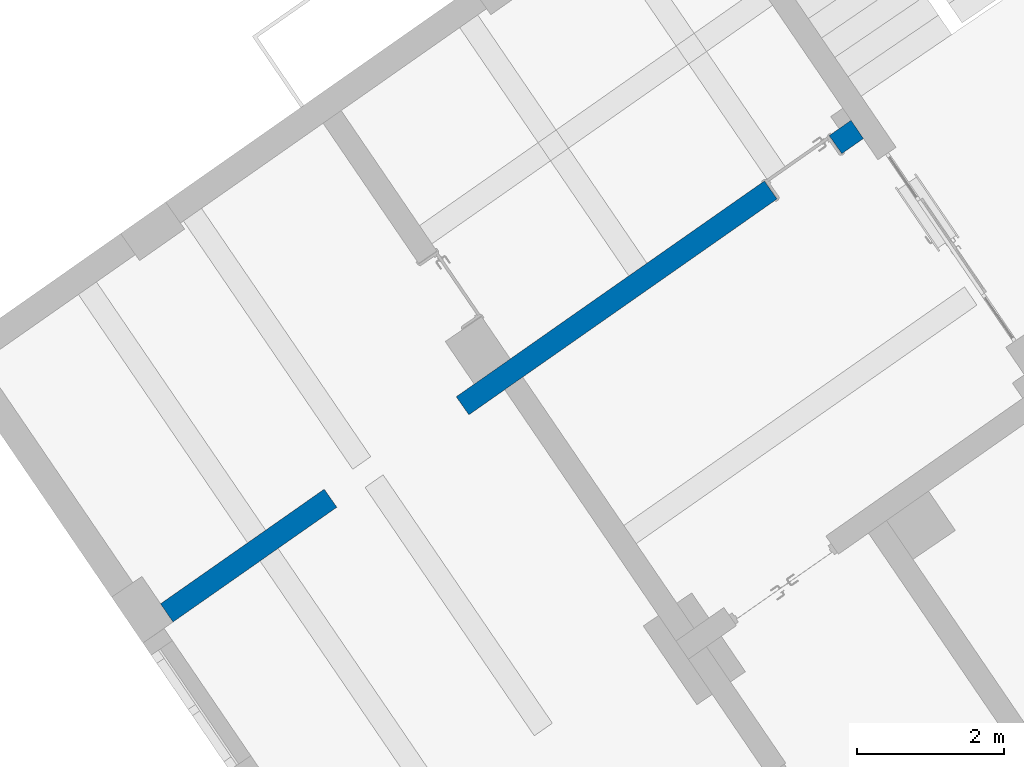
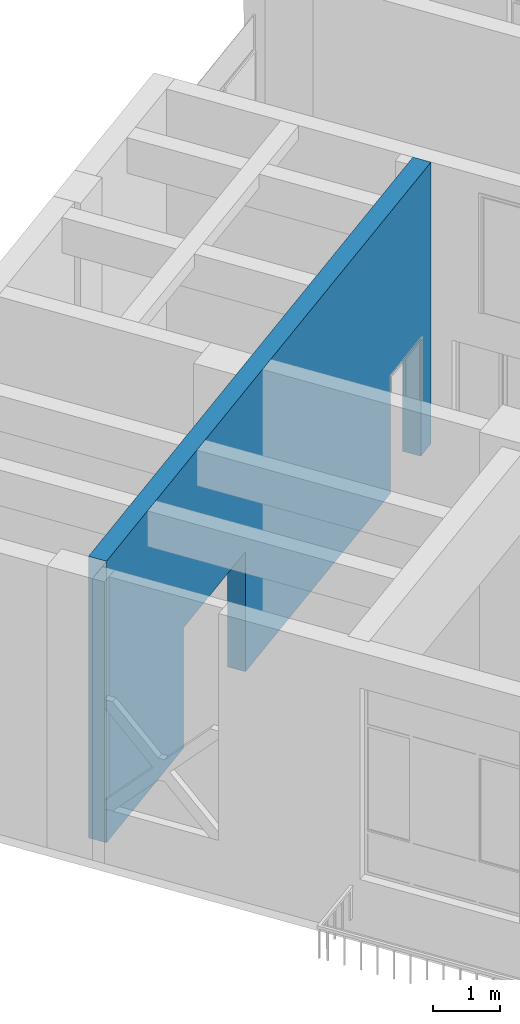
# One storey, part 129 of 157: 1 wall, 1 opening.
"""IFC2X3 building model written with IfcOpenShell, lengths in millimetres."""

from ifc_helpers import new_model, entity, si_unit, converted_unit, derived_unit, direction, frame, frame_2d, origin, place, context, subcontext, project, spatial, rectangle, extrude, faceted_brep, material, layer, layer_set, type_object, element, save


model = new_model("IFC2X3")

# Units and contexts
model_context = context("Model", 3, precision=0.01, world=origin(), true_north=direction((6.123031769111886e-17, 1.0)))
body_context = subcontext(model_context, "Body", "Model", "MODEL_VIEW")
ifc_project = project(units=[si_unit("LENGTHUNIT", "METRE", prefix="MILLI"), si_unit("AREAUNIT", "SQUARE_METRE"), si_unit("VOLUMEUNIT", "CUBIC_METRE"), converted_unit("PLANEANGLEUNIT", "DEGREE", entity("IfcRatioMeasure", 0.017453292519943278), si_unit("PLANEANGLEUNIT", "RADIAN"), dimensions=[0, 0, 0, 0, 0, 0, 0]), si_unit("MASSUNIT", "GRAM", prefix="KILO"), derived_unit("MASSDENSITYUNIT", [(si_unit("MASSUNIT", "GRAM", prefix="KILO"), 1), (si_unit("LENGTHUNIT", "METRE"), -3)]), derived_unit("MOMENTOFINERTIAUNIT", [(si_unit("LENGTHUNIT", "METRE"), 4)]), si_unit("TIMEUNIT", "SECOND"), si_unit("FREQUENCYUNIT", "HERTZ"), si_unit("THERMODYNAMICTEMPERATUREUNIT", "DEGREE_CELSIUS"), derived_unit("THERMALTRANSMITTANCEUNIT", [(si_unit("MASSUNIT", "GRAM", prefix="KILO"), 1), (si_unit("THERMODYNAMICTEMPERATUREUNIT", "KELVIN"), -1), (si_unit("TIMEUNIT", "SECOND"), -3)]), derived_unit("THERMALCONDUCTANCEUNIT", [(si_unit("MASSUNIT", "GRAM", prefix="KILO"), 1), (si_unit("LENGTHUNIT", "METRE"), 1), (si_unit("THERMODYNAMICTEMPERATUREUNIT", "KELVIN"), -1), (si_unit("TIMEUNIT", "SECOND"), -3)]), derived_unit("VOLUMETRICFLOWRATEUNIT", [(si_unit("LENGTHUNIT", "METRE"), 3), (si_unit("TIMEUNIT", "SECOND"), -1)]), derived_unit("MASSFLOWRATEUNIT", [(si_unit("MASSUNIT", "GRAM", prefix="KILO"), 1), (si_unit("TIMEUNIT", "SECOND"), -1)]), derived_unit("ROTATIONALFREQUENCYUNIT", [(si_unit("TIMEUNIT", "SECOND"), -1)]), si_unit("ELECTRICCURRENTUNIT", "AMPERE"), si_unit("ELECTRICVOLTAGEUNIT", "VOLT"), si_unit("POWERUNIT", "WATT"), converted_unit("FORCEUNIT", "KIP", entity("IfcRatioMeasure", 2.088543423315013e-05), si_unit("FORCEUNIT", "NEWTON"), dimensions=[1, 1, -2, 0, 0, 0, 0]), si_unit("ILLUMINANCEUNIT", "LUX"), si_unit("LUMINOUSFLUXUNIT", "LUMEN"), si_unit("LUMINOUSINTENSITYUNIT", "CANDELA"), derived_unit("USERDEFINED", [(si_unit("MASSUNIT", "GRAM", prefix="KILO"), -1), (si_unit("LENGTHUNIT", "METRE"), -2), (si_unit("TIMEUNIT", "SECOND"), 3), (si_unit("LUMINOUSFLUXUNIT", "LUMEN"), 1)]), derived_unit("USERDEFINED", [(si_unit("MASSUNIT", "GRAM", prefix="KILO"), 1), (si_unit("LENGTHUNIT", "METRE"), 3), (si_unit("TIMEUNIT", "SECOND"), -3), (si_unit("ELECTRICCURRENTUNIT", "AMPERE"), -2)]), derived_unit("USERDEFINED", [(si_unit("LENGTHUNIT", "METRE"), 2), (si_unit("TIMEUNIT", "SECOND"), -2)]), derived_unit("SOUNDPOWERUNIT", [(si_unit("MASSUNIT", "GRAM", prefix="KILO"), 1), (si_unit("LENGTHUNIT", "METRE"), 2), (si_unit("TIMEUNIT", "SECOND"), -3)]), derived_unit("SOUNDPRESSUREUNIT", [(si_unit("MASSUNIT", "GRAM", prefix="KILO"), 1), (si_unit("LENGTHUNIT", "METRE"), -1), (si_unit("TIMEUNIT", "SECOND"), -2)]), derived_unit("LINEARVELOCITYUNIT", [(si_unit("LENGTHUNIT", "METRE"), 1), (si_unit("TIMEUNIT", "SECOND"), -1)]), si_unit("PRESSUREUNIT", "PASCAL"), derived_unit("USERDEFINED", [(si_unit("LENGTHUNIT", "METRE"), -2), (si_unit("MASSUNIT", "GRAM", prefix="KILO"), 1), (si_unit("TIMEUNIT", "SECOND"), -2)]), derived_unit("LINEARFORCEUNIT", [(si_unit("MASSUNIT", "GRAM", prefix="KILO"), 1), (si_unit("LENGTHUNIT", "METRE"), 1), (si_unit("TIMEUNIT", "SECOND"), -2), (si_unit("LENGTHUNIT", "METRE"), -1)]), derived_unit("PLANARFORCEUNIT", [(si_unit("MASSUNIT", "GRAM", prefix="KILO"), 1), (si_unit("LENGTHUNIT", "METRE"), 1), (si_unit("TIMEUNIT", "SECOND"), -2), (si_unit("LENGTHUNIT", "METRE"), -2)]), derived_unit("SPECIFICHEATCAPACITYUNIT", [(si_unit("LENGTHUNIT", "METRE"), 2), (si_unit("TIMEUNIT", "SECOND"), -2), (si_unit("THERMODYNAMICTEMPERATUREUNIT", "KELVIN"), -1)]), derived_unit("VAPORPERMEABILITYUNIT", [(si_unit("TIMEUNIT", "SECOND"), 1), (si_unit("LENGTHUNIT", "METRE"), -1)]), derived_unit("DYNAMICVISCOSITYUNIT", [(si_unit("MASSUNIT", "GRAM", prefix="KILO"), 1), (si_unit("LENGTHUNIT", "METRE"), -1), (si_unit("TIMEUNIT", "SECOND"), -1)]), derived_unit("THERMALEXPANSIONCOEFFICIENTUNIT", [(si_unit("THERMODYNAMICTEMPERATUREUNIT", "KELVIN"), -1)])], contexts=[model_context])

# Site, building, storey
site_placement = place(None, frame((0.0, 0.0, 0.0), z_axis=(0.0, 0.0, 1.0), x_axis=(0.8191520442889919, 0.5735764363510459, 0.0)))
site = spatial("IfcSite", under=ifc_project, at=site_placement, Name="Default", CompositionType="ELEMENT")
building_placement = place(site_placement, origin())
building = spatial("IfcBuilding", under=site, at=building_placement, CompositionType="ELEMENT")
storey_placement = place(building_placement, origin())
storey = spatial("IfcBuildingStorey", under=building, at=storey_placement, Name="1.EG +0.00", CompositionType="ELEMENT", Elevation=-4.331468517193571e-12)

# Wall, opening
ifc_material = material(Name="Analytical Wall Surface_CJC")
ifc_layer = layer(ifc_material, 300.0)
ifc_layer_set = layer_set([ifc_layer], Name="Basic Wall:Wand_Innen_30")
wall_type = type_object("IfcWallType", Name="Basic Wall:Wand_Innen_30", PredefinedType="STANDARD", material=ifc_layer_set)
wall_placement = place(storey_placement, frame((-221928.93535472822, 168421.3589143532, 0.0)))
wall = element("IfcWall", 1, at=wall_placement, inside=storey, type_object=wall_type, Name="Basic Wall:Wand_Innen_30", ObjectType="Basic Wall:Wand_Innen_30", context=body_context, shape_type="Brep", body=[
    faceted_brep([(11500.933882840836, -150.0, 5150.0), (5825.702944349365, -150.0, 5150.0), (5525.678635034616, -150.0, 5150.0), (3500.273479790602, -150.0, 5150.0), (3200.2491704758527, -150.0, 5150.0), (1750.1296496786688, -150.0, 5150.0), (1450.1053403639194, -150.0, 5150.0), (0.0, -150.0, 5150.0), (0.0, -150.0, 0.0), (2729.2182636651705, -150.0, 0.0), (2729.2182636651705, -150.0, 2200.0), (4929.218263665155, -150.0, 2200.0), (4929.218263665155, -150.0, 0.0), (5525.678635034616, -150.0, 0.0), (5825.702944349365, -150.0, 0.0), (10061.331522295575, -150.0, 0.0), (10061.331522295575, -150.0, 2150.0), (11141.331522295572, -150.0, 2150.0), (11141.331522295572, -150.0, 0.0), (11500.933882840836, -150.0, 0.0), (3.819185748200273, 150.0, 5150.0), (1453.9245261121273, 150.0, 5150.0), (1753.9488354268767, 150.0, 5150.0), (3204.0683562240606, 150.0, 5150.0), (3504.09266553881, 150.0, 5150.0), (5229.485666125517, 150.0, 5150.0), (5829.534284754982, 150.0, 5150.0), (7804.441099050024, 150.0, 5150.0), (8104.465408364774, 150.0, 5150.0), (10104.651779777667, 150.0, 5150.0), (10404.676089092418, 150.0, 5150.0), (11305.82338654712, 150.0, 5150.0), (11504.753068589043, 150.0, 5150.0), (11504.753068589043, 150.0, 0.0), (11305.82338654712, 150.0, 0.0), (11141.33152229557, 150.0, 0.0), (11141.33152229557, 150.0, 2150.0), (10061.331522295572, 150.0, 2150.0), (10061.331522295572, 150.0, 0.0), (5829.534284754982, 150.0, 0.0), (5229.485666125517, 150.0, 0.0), (4929.218263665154, 150.0, 0.0), (4929.218263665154, 150.0, 2200.0), (2729.218263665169, 150.0, 2200.0), (2729.218263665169, 150.0, 0.0), (3.819185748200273, 150.0, 0.0)], [[[0, 1, 2, 3, 4, 5, 6, 7, 8, 9, 10, 11, 12, 13, 14, 15, 16, 17, 18, 19]], [[20, 21, 22, 23, 24, 25, 26, 27, 28, 29, 30, 31, 32, 33, 34, 35, 36, 37, 38, 39, 40, 41, 42, 43, 44, 45]], [[0, 19, 33, 32]], [[8, 7, 20, 45]], [[37, 16, 15, 38]], [[16, 37, 36, 17]], [[17, 36, 35, 18]], [[12, 41, 40, 39, 38, 15, 14, 13]], [[7, 6, 5, 4, 3, 2, 1, 0, 32, 31, 30, 29, 28, 27, 26, 25, 24, 23, 22, 21, 20]], [[9, 8, 45, 44]], [[10, 9, 44, 43]], [[11, 10, 43, 42]], [[12, 11, 42, 41]], [[33, 19, 18, 35, 34]]]),
])
opening_placement = place(wall_placement, frame((10061.331522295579, -150.0, 0.0)))
element("IfcOpeningElement", 2, at=opening_placement, cuts=wall, Name="Doors_IntSgl:100x210:1", ObjectType="Opening", context=body_context, shape_type="SweptSolid", body=[
    extrude(rectangle(XDim=2150.000000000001, YDim=1079.9999999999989, at=frame_2d((1075.0000000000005, 539.9999999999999), x_axis=(1.0, 0.0))), frame((0.0, 0.0, 0.0), z_axis=(0.0, 1.0, 0.0), x_axis=(0.0, 0.0, 1.0)), (0.0, 0.0, 1.0), 300.0),
])

save(model, "model.ifc")
